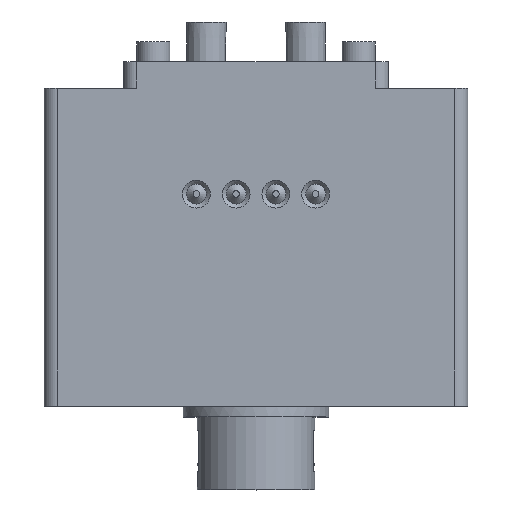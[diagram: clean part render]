
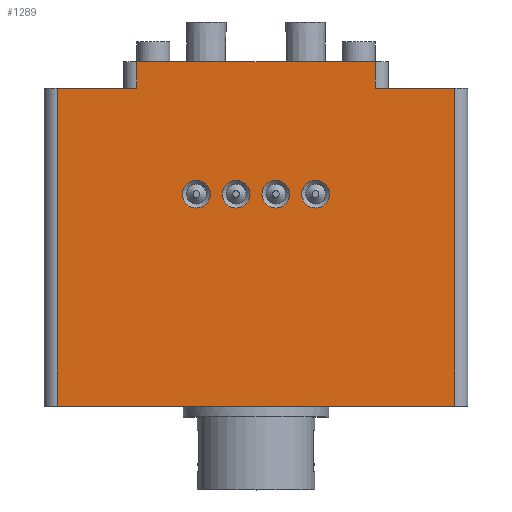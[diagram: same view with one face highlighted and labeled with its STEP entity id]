
A CAD part, top view. The second image highlights one B-rep face of the part: STEP entity #1289.
In plain terms, the highlighted planar face has unit normal (0, 0, 1).
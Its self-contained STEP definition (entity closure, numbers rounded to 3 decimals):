
#1289=ADVANCED_FACE('',(#3240,#3241,#3242,#3243,#3244),#3245,.T.);
#3240=FACE_BOUND('',#5827,.T.);
#3241=FACE_BOUND('',#5828,.T.);
#3242=FACE_BOUND('',#5829,.T.);
#3243=FACE_BOUND('',#5830,.T.);
#3244=FACE_OUTER_BOUND('',#5831,.T.);
#3245=PLANE('',#5832);
#5827=EDGE_LOOP('',(#10195));
#5828=EDGE_LOOP('',(#10196));
#5829=EDGE_LOOP('',(#10197));
#5830=EDGE_LOOP('',(#10198));
#5831=EDGE_LOOP('',(#10199,#10200,#10201,#10202,#10203,#10204,#10205,#10206));
#5832=AXIS2_PLACEMENT_3D('',#10207,#10208,#10209);
#10195=ORIENTED_EDGE('',*,*,#14097,.T.);
#10196=ORIENTED_EDGE('',*,*,#14098,.T.);
#10197=ORIENTED_EDGE('',*,*,#13525,.T.);
#10198=ORIENTED_EDGE('',*,*,#13522,.T.);
#10199=ORIENTED_EDGE('',*,*,#14099,.T.);
#10200=ORIENTED_EDGE('',*,*,#14100,.T.);
#10201=ORIENTED_EDGE('',*,*,#14101,.T.);
#10202=ORIENTED_EDGE('',*,*,#14102,.T.);
#10203=ORIENTED_EDGE('',*,*,#14103,.T.);
#10204=ORIENTED_EDGE('',*,*,#14104,.T.);
#10205=ORIENTED_EDGE('',*,*,#14105,.T.);
#10206=ORIENTED_EDGE('',*,*,#13850,.T.);
#10207=CARTESIAN_POINT('',(-16.0,-24.0,5.8));
#10208=DIRECTION('',(0.0,0.0,1.0));
#10209=DIRECTION('',(1.0,0.0,0.0));
#13522=EDGE_CURVE('',#15065,#15065,#15066,.T.);
#13525=EDGE_CURVE('',#15070,#15070,#15071,.T.);
#13850=EDGE_CURVE('',#15576,#15574,#15577,.T.);
#14097=EDGE_CURVE('',#15929,#15929,#15930,.T.);
#14098=EDGE_CURVE('',#15931,#15931,#15932,.T.);
#14099=EDGE_CURVE('',#15574,#15933,#15934,.T.);
#14100=EDGE_CURVE('',#15933,#15935,#15936,.T.);
#14101=EDGE_CURVE('',#15935,#15937,#15938,.T.);
#14102=EDGE_CURVE('',#15937,#15939,#15940,.T.);
#14103=EDGE_CURVE('',#15939,#15941,#15942,.T.);
#14104=EDGE_CURVE('',#15941,#15943,#15944,.T.);
#14105=EDGE_CURVE('',#15943,#15576,#15945,.T.);
#15065=VERTEX_POINT('',#17268);
#15066=CIRCLE('',#17269,1.05);
#15070=VERTEX_POINT('',#17273);
#15071=CIRCLE('',#17274,1.05);
#15574=VERTEX_POINT('',#17942);
#15576=VERTEX_POINT('',#17944);
#15577=LINE('',#17945,#17946);
#15929=VERTEX_POINT('',#18433);
#15930=CIRCLE('',#18434,1.05);
#15931=VERTEX_POINT('',#18435);
#15932=CIRCLE('',#18436,1.05);
#15933=VERTEX_POINT('',#18437);
#15934=LINE('',#18438,#18439);
#15935=VERTEX_POINT('',#18440);
#15936=LINE('',#18441,#18442);
#15937=VERTEX_POINT('',#18443);
#15938=LINE('',#18444,#18445);
#15939=VERTEX_POINT('',#18446);
#15940=LINE('',#18447,#18448);
#15941=VERTEX_POINT('',#18449);
#15942=LINE('',#18450,#18451);
#15943=VERTEX_POINT('',#18452);
#15944=LINE('',#18453,#18454);
#15945=LINE('',#18455,#18456);
#17268=CARTESIAN_POINT('',(-3.45,-10.0,5.8));
#17269=AXIS2_PLACEMENT_3D('',#20239,#20240,#20241);
#17273=CARTESIAN_POINT('',(-0.45,-10.0,5.8));
#17274=AXIS2_PLACEMENT_3D('',#20245,#20246,#20247);
#17942=CARTESIAN_POINT('',(15.0,-26.0,5.8));
#17944=CARTESIAN_POINT('',(-15.0,-26.0,5.8));
#17945=CARTESIAN_POINT('',(-16.0,-26.0,5.8));
#17946=VECTOR('',#20548,1.0);
#18433=CARTESIAN_POINT('',(5.55,-10.0,5.8));
#18434=AXIS2_PLACEMENT_3D('',#20750,#20751,#20752);
#18435=CARTESIAN_POINT('',(2.55,-10.0,5.8));
#18436=AXIS2_PLACEMENT_3D('',#20753,#20754,#20755);
#18437=CARTESIAN_POINT('',(15.0,-2.,5.8));
#18438=CARTESIAN_POINT('',(15.0,-7.,5.8));
#18439=VECTOR('',#20756,1.0);
#18440=CARTESIAN_POINT('',(9.0,-2.0,5.8));
#18441=CARTESIAN_POINT('',(16.0,-2.,5.8));
#18442=VECTOR('',#20757,1.0);
#18443=CARTESIAN_POINT('',(9.0,0.0,5.8));
#18444=CARTESIAN_POINT('',(9.0,0.0,5.8));
#18445=VECTOR('',#20758,1.0);
#18446=CARTESIAN_POINT('',(-9.0,0.0,5.8));
#18447=CARTESIAN_POINT('',(10.0,0.0,5.8));
#18448=VECTOR('',#20759,1.0);
#18449=CARTESIAN_POINT('',(-9.0,-2.0,5.8));
#18450=CARTESIAN_POINT('',(-9.0,-2.0,5.8));
#18451=VECTOR('',#20760,1.0);
#18452=CARTESIAN_POINT('',(-15.0,-2.,5.8));
#18453=CARTESIAN_POINT('',(16.0,-2.,5.8));
#18454=VECTOR('',#20761,1.0);
#18455=CARTESIAN_POINT('',(-15.0,-24.0,5.8));
#18456=VECTOR('',#20762,1.0);
#20239=CARTESIAN_POINT('',(-4.5,-10.0,5.8));
#20240=DIRECTION('',(0.0,0.0,-1.0));
#20241=DIRECTION('',(1.0,0.0,0.0));
#20245=CARTESIAN_POINT('',(-1.5,-10.0,5.8));
#20246=DIRECTION('',(0.0,0.0,-1.0));
#20247=DIRECTION('',(1.0,0.0,0.0));
#20548=DIRECTION('',(1.0,0.0,0.0));
#20750=CARTESIAN_POINT('',(4.5,-10.0,5.8));
#20751=DIRECTION('',(0.0,0.0,-1.0));
#20752=DIRECTION('',(1.0,0.0,0.0));
#20753=CARTESIAN_POINT('',(1.5,-10.0,5.8));
#20754=DIRECTION('',(0.0,0.0,-1.0));
#20755=DIRECTION('',(1.0,0.0,0.0));
#20756=DIRECTION('',(0.0,1.0,0.0));
#20757=DIRECTION('',(-1.0,0.0,0.0));
#20758=DIRECTION('',(0.0,1.0,0.0));
#20759=DIRECTION('',(-1.0,0.0,0.0));
#20760=DIRECTION('',(0.0,-1.0,0.0));
#20761=DIRECTION('',(-1.0,0.0,0.0));
#20762=DIRECTION('',(0.0,-1.0,0.0));
